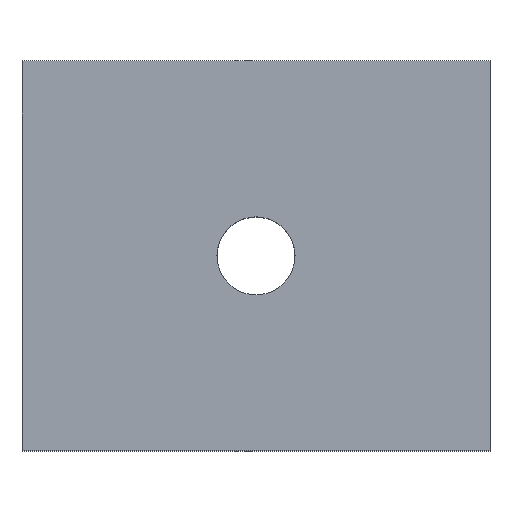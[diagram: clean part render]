
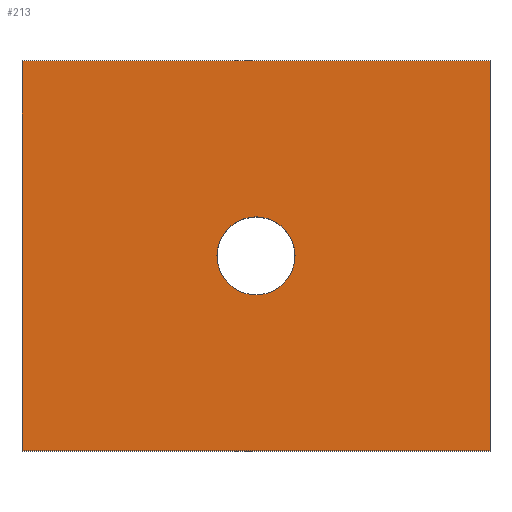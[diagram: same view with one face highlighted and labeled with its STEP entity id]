
A CAD part, top view. The second image highlights one B-rep face of the part: STEP entity #213.
In plain terms, the highlighted planar face has unit normal (0, 0, 1).
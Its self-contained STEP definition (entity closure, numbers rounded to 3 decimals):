
#24 = VERTEX_POINT('',#25);
#25 = CARTESIAN_POINT('',(0.,0.,4.));
#32 = PLANE('',#33);
#33 = AXIS2_PLACEMENT_3D('',#34,#35,#36);
#34 = CARTESIAN_POINT('',(0.,0.,0.));
#35 = DIRECTION('',(1.,0.,-0.));
#36 = DIRECTION('',(0.,0.,1.));
#44 = PLANE('',#45);
#45 = AXIS2_PLACEMENT_3D('',#46,#47,#48);
#46 = CARTESIAN_POINT('',(0.,0.,0.));
#47 = DIRECTION('',(-0.,1.,0.));
#48 = DIRECTION('',(0.,0.,1.));
#85 = VERTEX_POINT('',#86);
#86 = CARTESIAN_POINT('',(0.,10.,4.));
#100 = PLANE('',#101);
#101 = AXIS2_PLACEMENT_3D('',#102,#103,#104);
#102 = CARTESIAN_POINT('',(0.,10.,0.));
#103 = DIRECTION('',(-0.,1.,0.));
#104 = DIRECTION('',(0.,0.,1.));
#112 = EDGE_CURVE('',#24,#85,#113,.T.);
#113 = SURFACE_CURVE('',#114,(#118,#125),.PCURVE_S1.);
#114 = LINE('',#115,#116);
#115 = CARTESIAN_POINT('',(0.,0.,4.));
#116 = VECTOR('',#117,1.);
#117 = DIRECTION('',(-0.,1.,0.));
#118 = PCURVE('',#32,#119);
#119 = DEFINITIONAL_REPRESENTATION('',(#120),#124);
#120 = LINE('',#121,#122);
#121 = CARTESIAN_POINT('',(4.,0.));
#122 = VECTOR('',#123,1.);
#123 = DIRECTION('',(0.,-1.));
#124 = ( GEOMETRIC_REPRESENTATION_CONTEXT(2) 
PARAMETRIC_REPRESENTATION_CONTEXT() REPRESENTATION_CONTEXT('2D SPACE',''
  ) );
#125 = PCURVE('',#126,#131);
#126 = PLANE('',#127);
#127 = AXIS2_PLACEMENT_3D('',#128,#129,#130);
#128 = CARTESIAN_POINT('',(0.,0.,4.));
#129 = DIRECTION('',(0.,0.,1.));
#130 = DIRECTION('',(1.,0.,-0.));
#131 = DEFINITIONAL_REPRESENTATION('',(#132),#136);
#132 = LINE('',#133,#134);
#133 = CARTESIAN_POINT('',(0.,0.));
#134 = VECTOR('',#135,1.);
#135 = DIRECTION('',(0.,1.));
#136 = ( GEOMETRIC_REPRESENTATION_CONTEXT(2) 
PARAMETRIC_REPRESENTATION_CONTEXT() REPRESENTATION_CONTEXT('2D SPACE',''
  ) );
#165 = EDGE_CURVE('',#24,#166,#168,.T.);
#166 = VERTEX_POINT('',#167);
#167 = CARTESIAN_POINT('',(12.,0.,4.));
#168 = SURFACE_CURVE('',#169,(#173,#180),.PCURVE_S1.);
#169 = LINE('',#170,#171);
#170 = CARTESIAN_POINT('',(0.,0.,4.));
#171 = VECTOR('',#172,1.);
#172 = DIRECTION('',(1.,0.,-0.));
#173 = PCURVE('',#44,#174);
#174 = DEFINITIONAL_REPRESENTATION('',(#175),#179);
#175 = LINE('',#176,#177);
#176 = CARTESIAN_POINT('',(4.,0.));
#177 = VECTOR('',#178,1.);
#178 = DIRECTION('',(0.,1.));
#179 = ( GEOMETRIC_REPRESENTATION_CONTEXT(2) 
PARAMETRIC_REPRESENTATION_CONTEXT() REPRESENTATION_CONTEXT('2D SPACE',''
  ) );
#180 = PCURVE('',#126,#181);
#181 = DEFINITIONAL_REPRESENTATION('',(#182),#186);
#182 = LINE('',#183,#184);
#183 = CARTESIAN_POINT('',(0.,0.));
#184 = VECTOR('',#185,1.);
#185 = DIRECTION('',(1.,0.));
#186 = ( GEOMETRIC_REPRESENTATION_CONTEXT(2) 
PARAMETRIC_REPRESENTATION_CONTEXT() REPRESENTATION_CONTEXT('2D SPACE',''
  ) );
#202 = PLANE('',#203);
#203 = AXIS2_PLACEMENT_3D('',#204,#205,#206);
#204 = CARTESIAN_POINT('',(12.,0.,0.));
#205 = DIRECTION('',(1.,0.,-0.));
#206 = DIRECTION('',(0.,0.,1.));
#213 = ADVANCED_FACE('',(#214,#262),#126,.T.);
#214 = FACE_BOUND('',#215,.T.);
#215 = EDGE_LOOP('',(#216,#217,#218,#241));
#216 = ORIENTED_EDGE('',*,*,#112,.F.);
#217 = ORIENTED_EDGE('',*,*,#165,.T.);
#218 = ORIENTED_EDGE('',*,*,#219,.T.);
#219 = EDGE_CURVE('',#166,#220,#222,.T.);
#220 = VERTEX_POINT('',#221);
#221 = CARTESIAN_POINT('',(12.,10.,4.));
#222 = SURFACE_CURVE('',#223,(#227,#234),.PCURVE_S1.);
#223 = LINE('',#224,#225);
#224 = CARTESIAN_POINT('',(12.,0.,4.));
#225 = VECTOR('',#226,1.);
#226 = DIRECTION('',(-0.,1.,0.));
#227 = PCURVE('',#126,#228);
#228 = DEFINITIONAL_REPRESENTATION('',(#229),#233);
#229 = LINE('',#230,#231);
#230 = CARTESIAN_POINT('',(12.,0.));
#231 = VECTOR('',#232,1.);
#232 = DIRECTION('',(0.,1.));
#233 = ( GEOMETRIC_REPRESENTATION_CONTEXT(2) 
PARAMETRIC_REPRESENTATION_CONTEXT() REPRESENTATION_CONTEXT('2D SPACE',''
  ) );
#234 = PCURVE('',#202,#235);
#235 = DEFINITIONAL_REPRESENTATION('',(#236),#240);
#236 = LINE('',#237,#238);
#237 = CARTESIAN_POINT('',(4.,0.));
#238 = VECTOR('',#239,1.);
#239 = DIRECTION('',(0.,-1.));
#240 = ( GEOMETRIC_REPRESENTATION_CONTEXT(2) 
PARAMETRIC_REPRESENTATION_CONTEXT() REPRESENTATION_CONTEXT('2D SPACE',''
  ) );
#241 = ORIENTED_EDGE('',*,*,#242,.F.);
#242 = EDGE_CURVE('',#85,#220,#243,.T.);
#243 = SURFACE_CURVE('',#244,(#248,#255),.PCURVE_S1.);
#244 = LINE('',#245,#246);
#245 = CARTESIAN_POINT('',(0.,10.,4.));
#246 = VECTOR('',#247,1.);
#247 = DIRECTION('',(1.,0.,-0.));
#248 = PCURVE('',#126,#249);
#249 = DEFINITIONAL_REPRESENTATION('',(#250),#254);
#250 = LINE('',#251,#252);
#251 = CARTESIAN_POINT('',(0.,10.));
#252 = VECTOR('',#253,1.);
#253 = DIRECTION('',(1.,0.));
#254 = ( GEOMETRIC_REPRESENTATION_CONTEXT(2) 
PARAMETRIC_REPRESENTATION_CONTEXT() REPRESENTATION_CONTEXT('2D SPACE',''
  ) );
#255 = PCURVE('',#100,#256);
#256 = DEFINITIONAL_REPRESENTATION('',(#257),#261);
#257 = LINE('',#258,#259);
#258 = CARTESIAN_POINT('',(4.,0.));
#259 = VECTOR('',#260,1.);
#260 = DIRECTION('',(0.,1.));
#261 = ( GEOMETRIC_REPRESENTATION_CONTEXT(2) 
PARAMETRIC_REPRESENTATION_CONTEXT() REPRESENTATION_CONTEXT('2D SPACE',''
  ) );
#262 = FACE_BOUND('',#263,.T.);
#263 = EDGE_LOOP('',(#264));
#264 = ORIENTED_EDGE('',*,*,#265,.F.);
#265 = EDGE_CURVE('',#266,#266,#268,.T.);
#266 = VERTEX_POINT('',#267);
#267 = CARTESIAN_POINT('',(7.,5.,4.));
#268 = SURFACE_CURVE('',#269,(#274,#281),.PCURVE_S1.);
#269 = CIRCLE('',#270,1.);
#270 = AXIS2_PLACEMENT_3D('',#271,#272,#273);
#271 = CARTESIAN_POINT('',(6.,5.,4.));
#272 = DIRECTION('',(0.,0.,1.));
#273 = DIRECTION('',(1.,0.,-0.));
#274 = PCURVE('',#126,#275);
#275 = DEFINITIONAL_REPRESENTATION('',(#276),#280);
#276 = CIRCLE('',#277,1.);
#277 = AXIS2_PLACEMENT_2D('',#278,#279);
#278 = CARTESIAN_POINT('',(6.,5.));
#279 = DIRECTION('',(1.,0.));
#280 = ( GEOMETRIC_REPRESENTATION_CONTEXT(2) 
PARAMETRIC_REPRESENTATION_CONTEXT() REPRESENTATION_CONTEXT('2D SPACE',''
  ) );
#281 = PCURVE('',#282,#287);
#282 = CYLINDRICAL_SURFACE('',#283,1.);
#283 = AXIS2_PLACEMENT_3D('',#284,#285,#286);
#284 = CARTESIAN_POINT('',(6.,5.,-2.));
#285 = DIRECTION('',(0.,0.,1.));
#286 = DIRECTION('',(1.,0.,-0.));
#287 = DEFINITIONAL_REPRESENTATION('',(#288),#292);
#288 = LINE('',#289,#290);
#289 = CARTESIAN_POINT('',(0.,6.));
#290 = VECTOR('',#291,1.);
#291 = DIRECTION('',(1.,0.));
#292 = ( GEOMETRIC_REPRESENTATION_CONTEXT(2) 
PARAMETRIC_REPRESENTATION_CONTEXT() REPRESENTATION_CONTEXT('2D SPACE',''
  ) );
